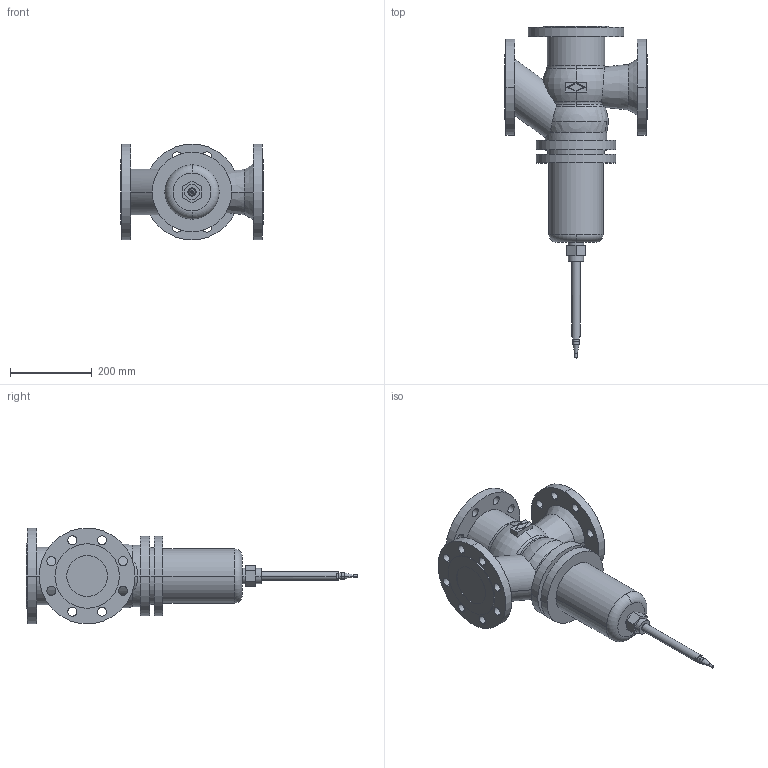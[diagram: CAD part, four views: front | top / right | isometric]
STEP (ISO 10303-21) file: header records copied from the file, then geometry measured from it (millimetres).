
FILE_DESCRIPTION( ( '' ), '1' );
FILE_NAME( 'F:/DE-SHS/TB/OR/04-Sonstiges/daten/files_3d/773-Mischventil/773-Mischventil_PN40/c000006185.stp', '2016-04-11T09:10:57', ( '' ), ( '' ), ' ', ' ', ' ' );
FILE_SCHEMA( ( 'CONFIG_CONTROL_DESIGN' ) );
Length unit declared in the file: millimetre
Products named in the file (1): 1
Bounding box: 350 x 814.44 x 235 mm (x, y, z)
Volume: 13386638 mm3; surface area: 662866.4 mm2
Topology: 1 solids, 1 shells, 165 faces, 425 edges, 278 vertices
Faces by surface type: cylinder 90, plane 52, torus 15, cone 6, sphere 2
Entity records: 5618 total; most frequent: CARTESIAN_POINT 1291, DIRECTION 960, ORIENTED_EDGE 842, EDGE_CURVE 421, AXIS2_PLACEMENT_3D 399, VERTEX_POINT 278, EDGE_LOOP 233, CIRCLE 231
